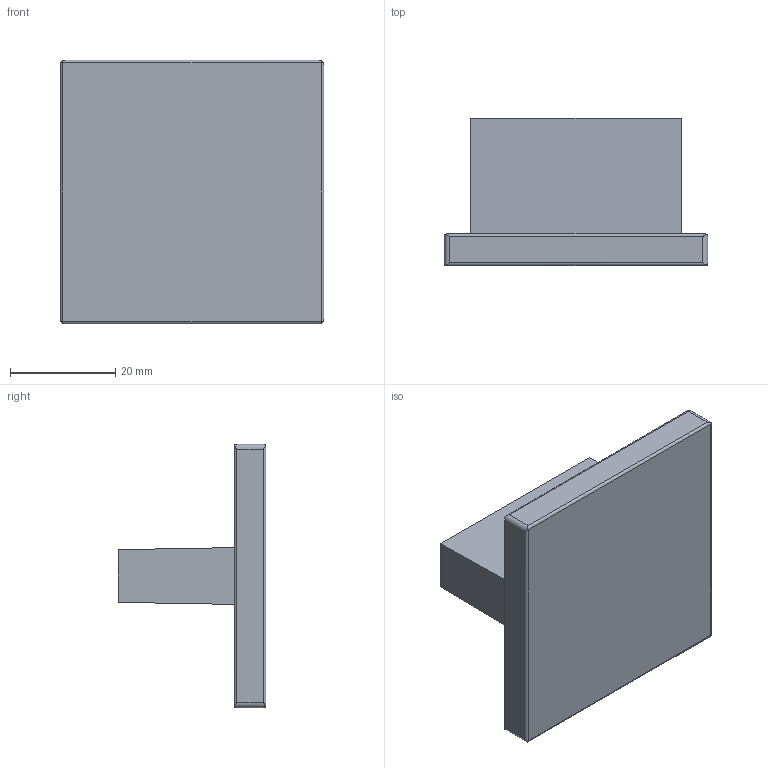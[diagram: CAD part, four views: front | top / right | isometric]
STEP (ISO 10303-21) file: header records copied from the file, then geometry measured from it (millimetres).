
FILE_DESCRIPTION( ( '' ), '1' );
FILE_NAME( 'D:/1.AUTOCAD EXPORT/Group 10/sheet_10_1/9113395.stp', '2013-10-16T10:54:07', ( '' ), ( '' ), ' ', ' ', ' ' );
FILE_SCHEMA( ( 'automotive_design' ) );
Length unit declared in the file: millimetre
Products named in the file (1): 1
Bounding box: 50 x 28 x 50 mm (x, y, z)
Volume: 23935.9 mm3; surface area: 8466.1 mm2
Topology: 1 solids, 1 shells, 29 faces, 72 edges, 48 vertices
Faces by surface type: cylinder 16, plane 13
Entity records: 1814 total; most frequent: CARTESIAN_POINT 278, STYLED_ITEM 150, PRESENTATION_STYLE_ASSIGNMENT 150, COLOUR_RGB 150, ORIENTED_EDGE 144, DIRECTION 132, EDGE_CURVE 72, CURVE_STYLE 72
